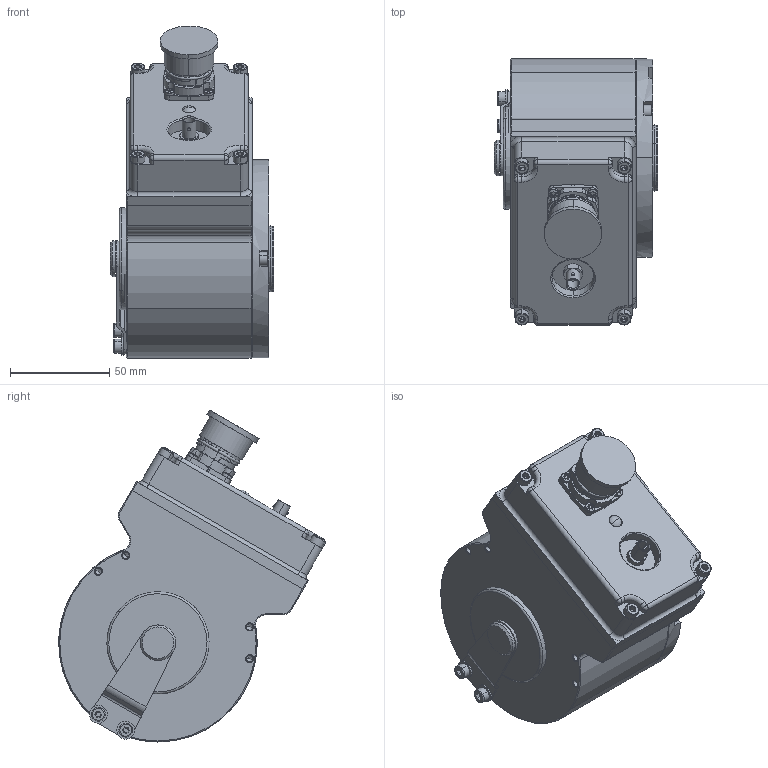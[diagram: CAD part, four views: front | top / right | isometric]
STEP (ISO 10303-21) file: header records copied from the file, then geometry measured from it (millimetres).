
FILE_DESCRIPTION (( 'STEP AP214' ), '1' );
FILE_NAME ('8.H120.1AXL.XXXX.STEP', '2014-08-14T09:55:58', ( 'HeirlerN' ), ( 'Microsoft' ), 'SwSTEP 2.0', 'SolidWorks 2013', '' );
FILE_SCHEMA (( 'AUTOMOTIVE_DESIGN' ));
Length unit declared in the file: millimetre
Products named in the file (1): 8.H120.1AXL.XXXX
Bounding box: 82.5 x 134.34 x 167.37 mm (x, y, z)
Volume: 408705.4 mm3; surface area: 165457 mm2
Topology: 29 solids, 29 shells, 1734 faces, 4191 edges, 2525 vertices
Faces by surface type: cylinder 650, plane 533, cone 351, torus 103, bspline 55, sphere 42
Entity records: 71785 total; most frequent: CARTESIAN_POINT 11637, DIRECTION 9057, ORIENTED_EDGE 8150, EDGE_CURVE 4075, AXIS2_PLACEMENT_3D 3513, VERTEX_POINT 2517, VECTOR 2031, LINE 2031
